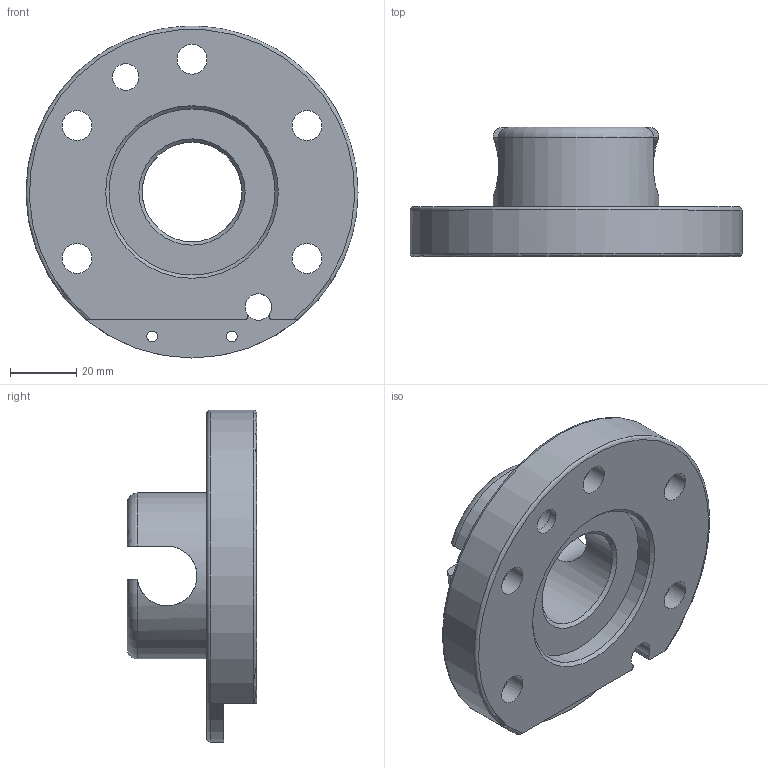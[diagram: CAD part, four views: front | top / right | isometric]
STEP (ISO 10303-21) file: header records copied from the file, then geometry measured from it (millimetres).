
FILE_DESCRIPTION(/* description */ (''),/* implementation_level */ '2;1');
FILE_NAME(/* name */ 'G-MGW100-2UEN.stp',/* time_stamp */ '2024-01-10T08:30:36+01:00',/* author */ ('ysplieth'),/* organization */ (''),/* preprocessor_version */ 'ST-DEVELOPER v20',/* originating_system */ 'Autodesk Inventor 2024',/* authorisation */ '');
FILE_SCHEMA (('AUTOMOTIVE_DESIGN { 1 0 10303 214 3 1 1 }'));
Length unit declared in the file: millimetre
Products named in the file (1): Bauteil4
Bounding box: 100 x 39 x 100 mm (x, y, z)
Volume: 106112.9 mm3; surface area: 28796 mm2
Topology: 1 solids, 1 shells, 50 faces, 127 edges, 84 vertices
Faces by surface type: cylinder 23, plane 17, cone 6, torus 4
Full cylindrical faces by diameter (mm): 3.242 x2, 8 x2, 9 x5, 10.1 x1, 15 x5, 30 x1, 50 x2, 100 x1
Entity records: 1811 total; most frequent: CARTESIAN_POINT 430, DIRECTION 275, ORIENTED_EDGE 254, EDGE_CURVE 127, AXIS2_PLACEMENT_3D 113, VERTEX_POINT 84, EDGE_LOOP 75, CIRCLE 62
